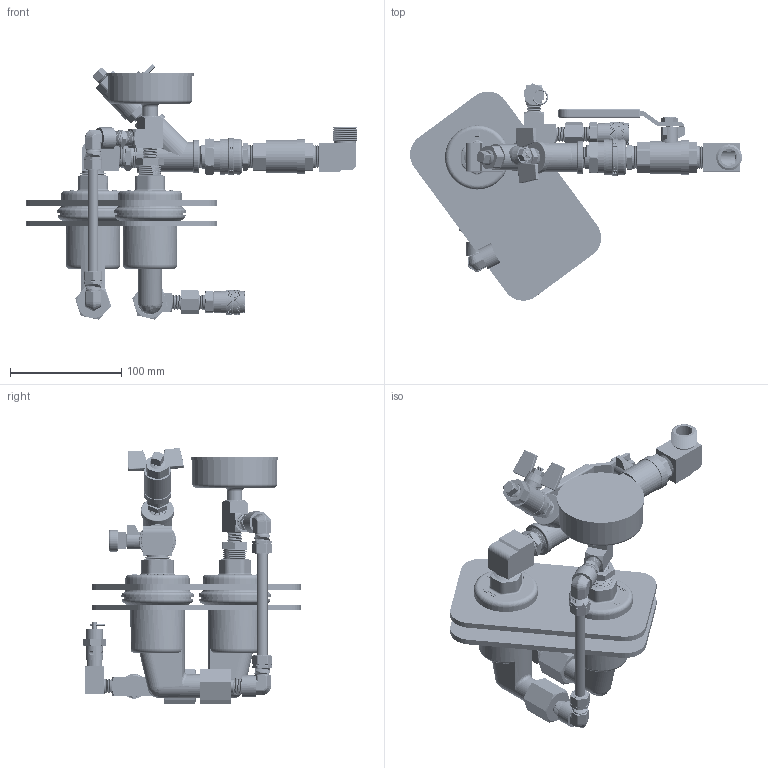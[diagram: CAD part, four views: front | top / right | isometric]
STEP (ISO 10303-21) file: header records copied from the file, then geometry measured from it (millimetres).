
FILE_DESCRIPTION(/* description */ (''),/* implementation_level */ '2;1');
FILE_NAME(/* name */ 'C:\Users\myoung\Box\ECS CAD Library\ECS Products\PAV-WN Nitrogen Inerting Wet Vent\Export\PAV-WN.stp',/* time_stamp */ '2020-05-13T15:10:45-05:00',/* author */ ('myoung'),/* organization */ (''),/* preprocessor_version */ 'ST-DEVELOPER v18',/* originating_system */ 'Autodesk Inventor 2020',/* authorisation */ '');
FILE_SCHEMA (('AUTOMOTIVE_DESIGN { 1 0 10303 214 3 1 1 }'));
Products named in the file (1): PAV-WN
Bounding box: 298.85 x 195.63 x 230.08 mm (x, y, z)
Volume: 878060.9 mm3; surface area: 292410.7 mm2
Topology: 30 solids, 30 shells, 11232 faces, 26697 edges, 15272 vertices
Faces by surface type: plane 8603, cylinder 1391, cone 910, bspline 252, torus 52, sphere 24
Full cylindrical faces by diameter (mm): 0.254 x1, 1.905 x1, 3.81 x5, 5.527 x9, 6.221 x8, 6.272 x1, 6.35 x1, 6.729 x1, 6.985 x2, 7.057 x10, 7.112 x2, 7.785 x9, 7.836 x2, 7.899 x1, 7.925 x5, 7.976 x2, 8.636 x1, 9.246 x1, 9.525 x1, 9.703 x4, 9.93 x1, 10.945 x1, 11.071 x1, 11.112 x4, 11.608 x1, 11.741 x2, 11.995 x2, 12.171 x2, 12.359 x2, 12.494 x1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
Entity records: 445562 total; most frequent: CARTESIAN_POINT 175084, DIRECTION 56422, ORIENTED_EDGE 53350, EDGE_CURVE 26675, AXIS2_PLACEMENT_3D 20665, VERTEX_POINT 15272, LINE 15092, VECTOR 15092
